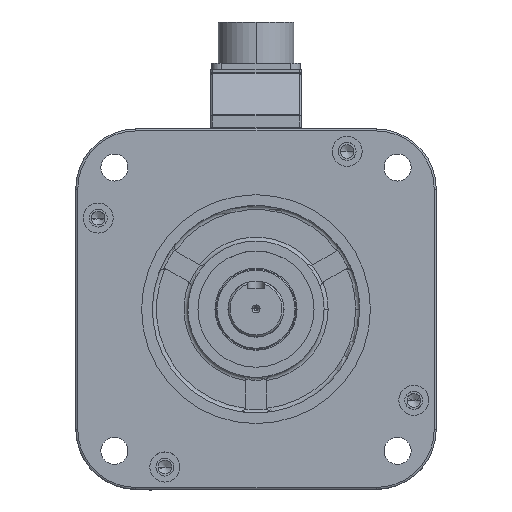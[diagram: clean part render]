
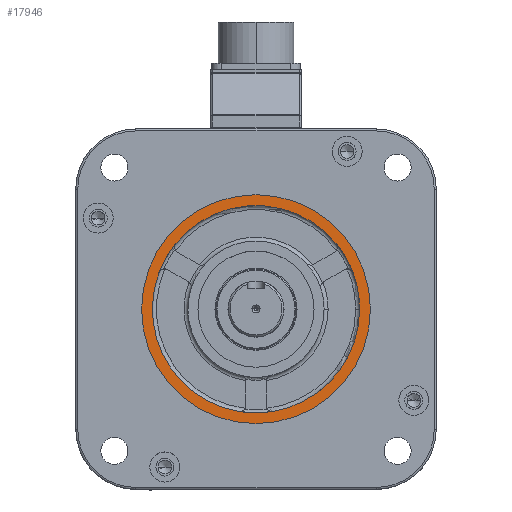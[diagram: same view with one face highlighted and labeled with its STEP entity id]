
A CAD part, top view. The second image highlights one B-rep face of the part: STEP entity #17946.
In plain terms, the highlighted planar face has unit normal (0, 0, 1).
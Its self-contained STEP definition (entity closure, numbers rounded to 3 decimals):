
#1073 = CARTESIAN_POINT ( 'NONE',  ( 0., 0., 21. ) ) ;
#2030 = CARTESIAN_POINT ( 'NONE',  ( 0., 0., 21. ) ) ;
#3266 = ORIENTED_EDGE ( 'NONE', *, *, #32943, .F. ) ;
#3525 = CARTESIAN_POINT ( 'NONE',  ( 0., 0., 21. ) ) ;
#4371 = DIRECTION ( 'NONE',  ( 0., 0., 1. ) ) ;
#4509 = CIRCLE ( 'NONE', #49415, 51.75 ) ;
#4865 = ORIENTED_EDGE ( 'NONE', *, *, #47397, .F. ) ;
#6186 = ORIENTED_EDGE ( 'NONE', *, *, #45438, .F. ) ;
#7825 = CIRCLE ( 'NONE', #55600, 51.75 ) ;
#8227 = DIRECTION ( 'NONE',  ( 0., 0., 1. ) ) ;
#8600 = VERTEX_POINT ( 'NONE', #11549 ) ;
#8621 = EDGE_CURVE ( 'NONE', #8600, #25763, #20347, .T. ) ;
#8822 = DIRECTION ( 'NONE',  ( 0., 0., 1. ) ) ;
#9159 = DIRECTION ( 'NONE',  ( 0., 0., 1. ) ) ;
#9425 = DIRECTION ( 'NONE',  ( 1., 0., 0. ) ) ;
#9554 = VERTEX_POINT ( 'NONE', #55350 ) ;
#9629 = DIRECTION ( 'NONE',  ( 1., 0., 0. ) ) ;
#9670 = CARTESIAN_POINT ( 'NONE',  ( 48.455, 18.17, 21. ) ) ;
#9755 = DIRECTION ( 'NONE',  ( 1., 0., 0. ) ) ;
#11549 = CARTESIAN_POINT ( 'NONE',  ( 39.963, 32.879, 21. ) ) ;
#12206 = DIRECTION ( 'NONE',  ( 0., 0., 1. ) ) ;
#15309 = CIRCLE ( 'NONE', #43966, 57.15 ) ;
#15523 = AXIS2_PLACEMENT_3D ( 'NONE', #28255, #8822, #9425 ) ;
#15711 = CARTESIAN_POINT ( 'NONE',  ( -39.963, 32.879, 21. ) ) ;
#15874 = CARTESIAN_POINT ( 'NONE',  ( -8.492, -51.048, 21. ) ) ;
#16430 = VERTEX_POINT ( 'NONE', #15874 ) ;
#16551 = CARTESIAN_POINT ( 'NONE',  ( 8.492, -51.048, 21. ) ) ;
#16760 = AXIS2_PLACEMENT_3D ( 'NONE', #3525, #54408, #22674 ) ;
#17946 = ADVANCED_FACE ( 'NONE', ( #23901, #51725 ), #56518, .T. ) ;
#18114 = CIRCLE ( 'NONE', #24796, 51.75 ) ;
#20305 = CARTESIAN_POINT ( 'NONE',  ( 57.15, 0., 21. ) ) ;
#20347 = CIRCLE ( 'NONE', #56665, 51.75 ) ;
#21403 = EDGE_CURVE ( 'NONE', #55752, #55926, #15309, .T. ) ;
#21484 = DIRECTION ( 'NONE',  ( 1., 0., 0. ) ) ;
#21814 = VERTEX_POINT ( 'NONE', #42558 ) ;
#22197 = DIRECTION ( 'NONE',  ( 1., 0., 0. ) ) ;
#22674 = DIRECTION ( 'NONE',  ( 1., 0., 0. ) ) ;
#22799 = DIRECTION ( 'NONE',  ( 0., 0., 1. ) ) ;
#22931 = DIRECTION ( 'NONE',  ( 1., 0., 0. ) ) ;
#23146 = CIRCLE ( 'NONE', #15523, 51.75 ) ;
#23901 = FACE_BOUND ( 'NONE', #32870, .T. ) ;
#24088 = ORIENTED_EDGE ( 'NONE', *, *, #32858, .T. ) ;
#24399 = EDGE_CURVE ( 'NONE', #9554, #16430, #23146, .T. ) ;
#24796 = AXIS2_PLACEMENT_3D ( 'NONE', #45854, #50624, #9629 ) ;
#25763 = VERTEX_POINT ( 'NONE', #15711 ) ;
#26238 = AXIS2_PLACEMENT_3D ( 'NONE', #29753, #37861, #51931 ) ;
#27284 = ORIENTED_EDGE ( 'NONE', *, *, #21403, .T. ) ;
#28255 = CARTESIAN_POINT ( 'NONE',  ( 0., 0., 21. ) ) ;
#29169 = CIRCLE ( 'NONE', #16760, 51.75 ) ;
#29232 = EDGE_CURVE ( 'NONE', #35574, #21814, #7825, .T. ) ;
#29753 = CARTESIAN_POINT ( 'NONE',  ( 0., 0., 21. ) ) ;
#30532 = CARTESIAN_POINT ( 'NONE',  ( -57.15, 0., 21. ) ) ;
#30738 = CARTESIAN_POINT ( 'NONE',  ( 0., 0., 21. ) ) ;
#30962 = DIRECTION ( 'NONE',  ( 1., 0., 0. ) ) ;
#31008 = CIRCLE ( 'NONE', #54909, 57.15 ) ;
#31464 = CARTESIAN_POINT ( 'NONE',  ( 0., 0., 21. ) ) ;
#32220 = EDGE_LOOP ( 'NONE', ( #24088, #27284 ) ) ;
#32858 = EDGE_CURVE ( 'NONE', #55926, #55752, #31008, .T. ) ;
#32870 = EDGE_LOOP ( 'NONE', ( #3266, #4865, #37128, #42459, #56840, #6186, #53172 ) ) ;
#32943 = EDGE_CURVE ( 'NONE', #58573, #8600, #36748, .T. ) ;
#35574 = VERTEX_POINT ( 'NONE', #16551 ) ;
#36344 = CARTESIAN_POINT ( 'NONE',  ( 0., 0., 21. ) ) ;
#36748 = CIRCLE ( 'NONE', #26238, 51.75 ) ;
#37128 = ORIENTED_EDGE ( 'NONE', *, *, #29232, .F. ) ;
#37861 = DIRECTION ( 'NONE',  ( 0., 0., 1. ) ) ;
#42165 = DIRECTION ( 'NONE',  ( 0., 0., 1. ) ) ;
#42459 = ORIENTED_EDGE ( 'NONE', *, *, #42582, .F. ) ;
#42558 = CARTESIAN_POINT ( 'NONE',  ( 51.75, 0., 21. ) ) ;
#42582 = EDGE_CURVE ( 'NONE', #16430, #35574, #29169, .T. ) ;
#43966 = AXIS2_PLACEMENT_3D ( 'NONE', #45685, #9159, #22931 ) ;
#45438 = EDGE_CURVE ( 'NONE', #25763, #9554, #4509, .T. ) ;
#45685 = CARTESIAN_POINT ( 'NONE',  ( 0., 0., 21. ) ) ;
#45854 = CARTESIAN_POINT ( 'NONE',  ( 0., 0., 21. ) ) ;
#47397 = EDGE_CURVE ( 'NONE', #21814, #58573, #18114, .T. ) ;
#48196 = AXIS2_PLACEMENT_3D ( 'NONE', #2030, #42165, #52017 ) ;
#49415 = AXIS2_PLACEMENT_3D ( 'NONE', #1073, #4371, #9755 ) ;
#50624 = DIRECTION ( 'NONE',  ( 0., 0., 1. ) ) ;
#51725 = FACE_OUTER_BOUND ( 'NONE', #32220, .T. ) ;
#51931 = DIRECTION ( 'NONE',  ( 1., 0., 0. ) ) ;
#52017 = DIRECTION ( 'NONE',  ( 1., 0., 0. ) ) ;
#53172 = ORIENTED_EDGE ( 'NONE', *, *, #8621, .F. ) ;
#54408 = DIRECTION ( 'NONE',  ( 0., 0., 1. ) ) ;
#54909 = AXIS2_PLACEMENT_3D ( 'NONE', #30738, #12206, #21484 ) ;
#55350 = CARTESIAN_POINT ( 'NONE',  ( -48.455, 18.17, 21. ) ) ;
#55600 = AXIS2_PLACEMENT_3D ( 'NONE', #31464, #22799, #22197 ) ;
#55752 = VERTEX_POINT ( 'NONE', #20305 ) ;
#55926 = VERTEX_POINT ( 'NONE', #30532 ) ;
#56518 = PLANE ( 'NONE',  #48196 ) ;
#56665 = AXIS2_PLACEMENT_3D ( 'NONE', #36344, #8227, #30962 ) ;
#56840 = ORIENTED_EDGE ( 'NONE', *, *, #24399, .F. ) ;
#58573 = VERTEX_POINT ( 'NONE', #9670 ) ;
